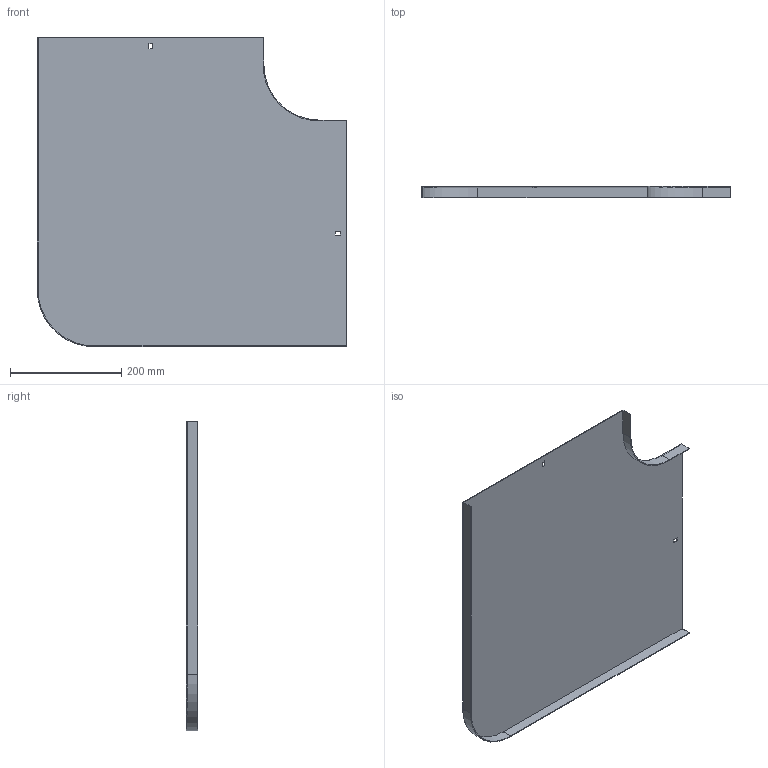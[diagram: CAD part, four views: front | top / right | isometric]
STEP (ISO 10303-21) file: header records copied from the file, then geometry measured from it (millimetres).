
FILE_DESCRIPTION (( 'STEP AP214' ), '1' );
FILE_NAME ('10N1R400.step', '2025-02-21T09:21:53', ( '' ), ( '' ), 'SwSTEP 2.0', 'SolidWorks 2023', '' );
FILE_SCHEMA (( 'AUTOMOTIVE_DESIGN' ));
Length unit declared in the file: millimetre
Products named in the file (1): 10N1R400
Bounding box: 555.5 x 20 x 555.5 mm (x, y, z)
Volume: 466113.3 mm3; surface area: 624892.6 mm2
Topology: 1 solids, 1 shells, 26 faces, 72 edges, 48 vertices
Faces by surface type: plane 22, cylinder 4
Entity records: 855 total; most frequent: CARTESIAN_POINT 147, ORIENTED_EDGE 144, DIRECTION 134, EDGE_CURVE 72, LINE 64, VECTOR 64, VERTEX_POINT 48, AXIS2_PLACEMENT_3D 35
